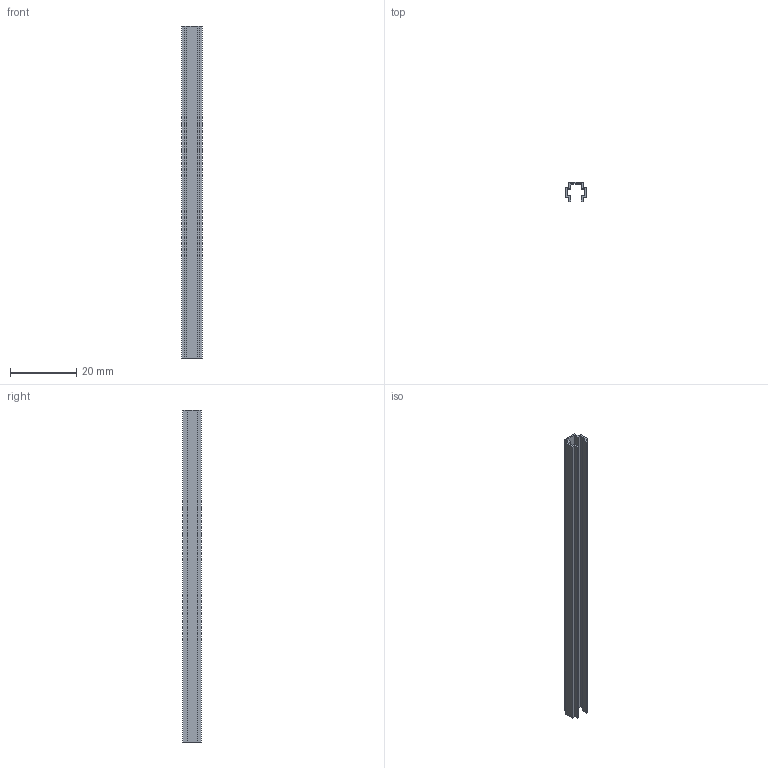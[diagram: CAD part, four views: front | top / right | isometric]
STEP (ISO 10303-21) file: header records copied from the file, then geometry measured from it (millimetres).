
FILE_DESCRIPTION(/* description */ ('Unknown'),/* implementation_level */ '2;1');
FILE_NAME(/* name */ 'GWH04',/* time_stamp */ '2026-09-17T11:24:35+08:00',/* author */ ('Unknown'),/* organization */ ('Unknown'),/* preprocessor_version */ 'ST-DEVELOPER v16.7',/* originating_system */ 'DEX',/* authorisation */ $);
FILE_SCHEMA (('AUTOMOTIVE_DESIGN {1 0 10303 214 3 1 1}'));
Length unit declared in the file: millimetre
Products named in the file (1): DCPE-4
Bounding box: 6.3 x 5.7 x 100 mm (x, y, z)
Volume: 970 mm3; surface area: 3859.4 mm2
Topology: 1 solids, 1 shells, 26 faces, 72 edges, 48 vertices
Faces by surface type: plane 26
Entity records: 846 total; most frequent: CARTESIAN_POINT 147, ORIENTED_EDGE 144, DIRECTION 126, EDGE_CURVE 72, LINE 72, VECTOR 72, VERTEX_POINT 48, AXIS2_PLACEMENT_3D 27
